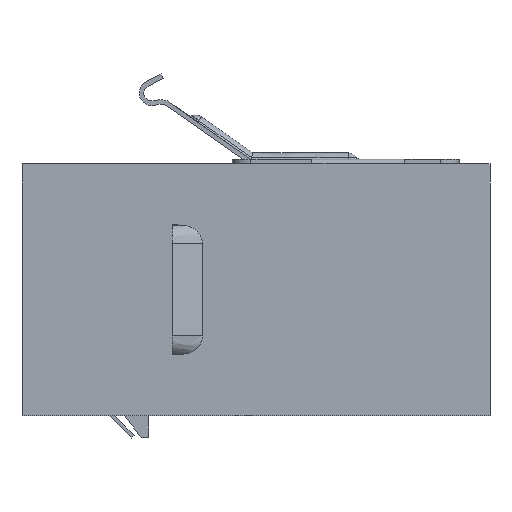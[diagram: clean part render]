
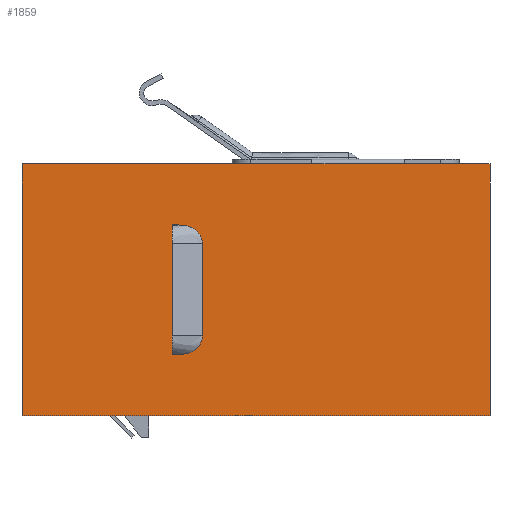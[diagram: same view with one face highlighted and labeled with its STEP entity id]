
A CAD part, front view. The second image highlights one B-rep face of the part: STEP entity #1859.
In plain terms, the highlighted free-form (B-spline) face has degree [1, 1] with [2, 2] control points.
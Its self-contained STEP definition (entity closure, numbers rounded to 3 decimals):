
#1088=CARTESIAN_POINT('',(9.616,0.,3.906));
#1089=VERTEX_POINT('',#1088);
#1099=CARTESIAN_POINT('',(9.616,0.,12.22));
#1100=VERTEX_POINT('',#1099);
#1101=CARTESIAN_POINT('',(9.616,0.,3.906));
#1102=CARTESIAN_POINT('',(9.616,0.,5.569));
#1103=CARTESIAN_POINT('',(9.616,0.,7.232));
#1104=CARTESIAN_POINT('',(9.616,0.,8.895));
#1105=CARTESIAN_POINT('',(9.616,0.,10.558));
#1106=CARTESIAN_POINT('',(9.616,0.,12.22));
#1107=B_SPLINE_CURVE_WITH_KNOTS('',5,(#1101,#1102,#1103,#1104,#1105,#1106),.UNSPECIFIED.,.F.,.U.,(6,6),(0.,8.314),.UNSPECIFIED.);
#1108=EDGE_CURVE('',#1089,#1100,#1107,.T.);
#1139=CARTESIAN_POINT('',(10.027,0.,3.906));
#1140=VERTEX_POINT('',#1139);
#1150=CARTESIAN_POINT('',(10.027,0.,3.906));
#1151=CARTESIAN_POINT('',(9.945,0.,3.906));
#1152=CARTESIAN_POINT('',(9.863,0.,3.906));
#1153=CARTESIAN_POINT('',(9.78,0.,3.906));
#1154=CARTESIAN_POINT('',(9.698,0.,3.906));
#1155=CARTESIAN_POINT('',(9.616,0.,3.906));
#1156=B_SPLINE_CURVE_WITH_KNOTS('',5,(#1150,#1151,#1152,#1153,#1154,#1155),.UNSPECIFIED.,.F.,.U.,(6,6),(0.,1.),.UNSPECIFIED.);
#1157=EDGE_CURVE('',#1140,#1089,#1156,.T.);
#1216=CARTESIAN_POINT('',(11.555,0.,5.104));
#1217=VERTEX_POINT('',#1216);
#1227=CARTESIAN_POINT('',(11.555,0.,5.104));
#1228=CARTESIAN_POINT('',(11.556,0.,4.963));
#1229=CARTESIAN_POINT('',(11.532,0.,4.821));
#1230=CARTESIAN_POINT('',(11.485,0.,4.684));
#1231=CARTESIAN_POINT('',(11.418,0.,4.557));
#1232=CARTESIAN_POINT('',(11.278,0.,4.376));
#1233=CARTESIAN_POINT('',(11.219,0.,4.312));
#1234=CARTESIAN_POINT('',(11.155,0.,4.252));
#1235=CARTESIAN_POINT('',(11.086,0.,4.199));
#1236=CARTESIAN_POINT('',(10.937,0.,4.104));
#1237=CARTESIAN_POINT('',(10.858,0.,4.062));
#1238=CARTESIAN_POINT('',(10.775,0.,4.028));
#1239=CARTESIAN_POINT('',(10.69,0.,4.001));
#1240=CARTESIAN_POINT('',(10.489,0.,3.956));
#1241=CARTESIAN_POINT('',(10.374,0.,3.936));
#1242=CARTESIAN_POINT('',(10.259,0.,3.921));
#1243=CARTESIAN_POINT('',(10.143,0.,3.911));
#1244=CARTESIAN_POINT('',(10.027,0.,3.906));
#1245=B_SPLINE_CURVE_WITH_KNOTS('',5,(#1227,#1228,#1229,#1230,#1231,#1232,#1233,#1234,#1235,#1236,#1237,#1238,#1239,#1240,#1241,#1242,#1243,#1244),.UNSPECIFIED.,.F.,.U.,(6,4,4,4,6),(0.,0.326,0.527,0.732,1.),.UNSPECIFIED.);
#1246=EDGE_CURVE('',#1217,#1140,#1245,.T.);
#1258=CARTESIAN_POINT('',(11.555,0.,11.022));
#1259=VERTEX_POINT('',#1258);
#1269=CARTESIAN_POINT('',(11.555,0.,11.022));
#1270=CARTESIAN_POINT('',(11.555,0.,9.839));
#1271=CARTESIAN_POINT('',(11.555,0.,8.655));
#1272=CARTESIAN_POINT('',(11.555,0.,7.472));
#1273=CARTESIAN_POINT('',(11.555,0.,6.288));
#1274=CARTESIAN_POINT('',(11.555,0.,5.104));
#1275=B_SPLINE_CURVE_WITH_KNOTS('',5,(#1269,#1270,#1271,#1272,#1273,#1274),.UNSPECIFIED.,.F.,.U.,(6,6),(0.,5.918),.UNSPECIFIED.);
#1276=EDGE_CURVE('',#1259,#1217,#1275,.T.);
#1336=CARTESIAN_POINT('',(10.027,0.,12.22));
#1337=VERTEX_POINT('',#1336);
#1347=CARTESIAN_POINT('',(10.027,0.,12.22));
#1348=CARTESIAN_POINT('',(10.143,0.,12.216));
#1349=CARTESIAN_POINT('',(10.259,0.,12.206));
#1350=CARTESIAN_POINT('',(10.374,0.,12.191));
#1351=CARTESIAN_POINT('',(10.489,0.,12.171));
#1352=CARTESIAN_POINT('',(10.688,0.,12.127));
#1353=CARTESIAN_POINT('',(10.771,0.,12.1));
#1354=CARTESIAN_POINT('',(10.852,0.,12.067));
#1355=CARTESIAN_POINT('',(10.93,0.,12.027));
#1356=CARTESIAN_POINT('',(11.079,0.,11.933));
#1357=CARTESIAN_POINT('',(11.15,0.,11.879));
#1358=CARTESIAN_POINT('',(11.216,0.,11.818));
#1359=CARTESIAN_POINT('',(11.277,0.,11.752));
#1360=CARTESIAN_POINT('',(11.418,0.,11.569));
#1361=CARTESIAN_POINT('',(11.485,0.,11.442));
#1362=CARTESIAN_POINT('',(11.532,0.,11.306));
#1363=CARTESIAN_POINT('',(11.556,0.,11.164));
#1364=CARTESIAN_POINT('',(11.555,0.,11.022));
#1365=B_SPLINE_CURVE_WITH_KNOTS('',5,(#1347,#1348,#1349,#1350,#1351,#1352,#1353,#1354,#1355,#1356,#1357,#1358,#1359,#1360,#1361,#1362,#1363,#1364),.UNSPECIFIED.,.F.,.U.,(6,4,4,4,6),(0.,0.268,0.468,0.674,1.),.UNSPECIFIED.);
#1366=EDGE_CURVE('',#1337,#1259,#1365,.T.);
#1390=CARTESIAN_POINT('',(9.616,0.,12.22));
#1391=CARTESIAN_POINT('',(9.698,0.,12.22));
#1392=CARTESIAN_POINT('',(9.78,0.,12.22));
#1393=CARTESIAN_POINT('',(9.863,0.,12.22));
#1394=CARTESIAN_POINT('',(9.945,0.,12.22));
#1395=CARTESIAN_POINT('',(10.027,0.,12.22));
#1396=B_SPLINE_CURVE_WITH_KNOTS('',5,(#1390,#1391,#1392,#1393,#1394,#1395),.UNSPECIFIED.,.F.,.U.,(6,6),(0.,1.),.UNSPECIFIED.);
#1397=EDGE_CURVE('',#1100,#1337,#1396,.T.);
#1778=CARTESIAN_POINT('',(30.,0.,16.127));
#1779=CARTESIAN_POINT('',(30.,0.,0.));
#1780=CARTESIAN_POINT('',(0.,0.,16.127));
#1781=CARTESIAN_POINT('',(0.,0.,0.));
#1782=B_SPLINE_SURFACE_WITH_KNOTS('',1,1,((#1778,#1779),(#1780,#1781)),.PLANE_SURF.,.F.,.F.,.U.,(2,2),(2,2),(0.,1.86),(0.,1.),.UNSPECIFIED.);
#1783=CARTESIAN_POINT('',(30.,0.,0.));
#1784=VERTEX_POINT('',#1783);
#1785=CARTESIAN_POINT('',(0.,0.,0.));
#1786=VERTEX_POINT('',#1785);
#1787=CARTESIAN_POINT('',(30.,0.,0.));
#1788=CARTESIAN_POINT('',(24.,0.,0.));
#1789=CARTESIAN_POINT('',(18.,0.,0.));
#1790=CARTESIAN_POINT('',(12.,0.,0.));
#1791=CARTESIAN_POINT('',(6.,0.,0.));
#1792=CARTESIAN_POINT('',(0.,0.,0.));
#1793=B_SPLINE_CURVE_WITH_KNOTS('',5,(#1787,#1788,#1789,#1790,#1791,#1792),.UNSPECIFIED.,.F.,.U.,(6,6),(0.,30.),.UNSPECIFIED.);
#1794=EDGE_CURVE('',#1784,#1786,#1793,.T.);
#1795=ORIENTED_EDGE('',*,*,#1794,.F.);
#1796=CARTESIAN_POINT('',(30.,0.,16.127));
#1797=VERTEX_POINT('',#1796);
#1798=CARTESIAN_POINT('',(30.,0.,16.127));
#1799=CARTESIAN_POINT('',(30.,0.,12.901));
#1800=CARTESIAN_POINT('',(30.,0.,9.676));
#1801=CARTESIAN_POINT('',(30.,0.,6.451));
#1802=CARTESIAN_POINT('',(30.,0.,3.225));
#1803=CARTESIAN_POINT('',(30.,0.,0.));
#1804=B_SPLINE_CURVE_WITH_KNOTS('',5,(#1798,#1799,#1800,#1801,#1802,#1803),.UNSPECIFIED.,.F.,.U.,(6,6),(0.,16.127),.UNSPECIFIED.);
#1805=EDGE_CURVE('',#1797,#1784,#1804,.T.);
#1806=ORIENTED_EDGE('',*,*,#1805,.F.);
#1807=CARTESIAN_POINT('',(24.541,0.,16.127));
#1808=VERTEX_POINT('',#1807);
#1809=CARTESIAN_POINT('',(24.541,0.,16.127));
#1810=CARTESIAN_POINT('',(25.633,0.,16.127));
#1811=CARTESIAN_POINT('',(26.725,0.,16.127));
#1812=CARTESIAN_POINT('',(27.816,0.,16.127));
#1813=CARTESIAN_POINT('',(28.908,0.,16.127));
#1814=CARTESIAN_POINT('',(30.,0.,16.127));
#1815=B_SPLINE_CURVE_WITH_KNOTS('',5,(#1809,#1810,#1811,#1812,#1813,#1814),.UNSPECIFIED.,.F.,.U.,(6,6),(0.,5.459),.UNSPECIFIED.);
#1816=EDGE_CURVE('',#1808,#1797,#1815,.T.);
#1817=ORIENTED_EDGE('',*,*,#1816,.F.);
#1818=CARTESIAN_POINT('',(18.581,0.,16.127));
#1819=VERTEX_POINT('',#1818);
#1820=CARTESIAN_POINT('',(18.581,0.,16.127));
#1821=CARTESIAN_POINT('',(19.773,0.,16.127));
#1822=CARTESIAN_POINT('',(20.965,0.,16.127));
#1823=CARTESIAN_POINT('',(22.157,0.,16.127));
#1824=CARTESIAN_POINT('',(23.349,0.,16.127));
#1825=CARTESIAN_POINT('',(24.541,0.,16.127));
#1826=B_SPLINE_CURVE_WITH_KNOTS('',5,(#1820,#1821,#1822,#1823,#1824,#1825),.UNSPECIFIED.,.F.,.U.,(6,6),(0.,5.96),.UNSPECIFIED.);
#1827=EDGE_CURVE('',#1819,#1808,#1826,.T.);
#1828=ORIENTED_EDGE('',*,*,#1827,.F.);
#1829=CARTESIAN_POINT('',(0.,0.,16.127));
#1830=VERTEX_POINT('',#1829);
#1831=CARTESIAN_POINT('',(0.,0.,16.127));
#1832=CARTESIAN_POINT('',(3.716,0.,16.127));
#1833=CARTESIAN_POINT('',(7.432,0.,16.127));
#1834=CARTESIAN_POINT('',(11.149,0.,16.127));
#1835=CARTESIAN_POINT('',(14.865,0.,16.127));
#1836=CARTESIAN_POINT('',(18.581,0.,16.127));
#1837=B_SPLINE_CURVE_WITH_KNOTS('',5,(#1831,#1832,#1833,#1834,#1835,#1836),.UNSPECIFIED.,.F.,.U.,(6,6),(0.,18.581),.UNSPECIFIED.);
#1838=EDGE_CURVE('',#1830,#1819,#1837,.T.);
#1839=ORIENTED_EDGE('',*,*,#1838,.F.);
#1840=CARTESIAN_POINT('',(0.,0.,0.));
#1841=CARTESIAN_POINT('',(0.,0.,3.225));
#1842=CARTESIAN_POINT('',(0.,0.,6.451));
#1843=CARTESIAN_POINT('',(0.,0.,9.676));
#1844=CARTESIAN_POINT('',(0.,0.,12.901));
#1845=CARTESIAN_POINT('',(0.,0.,16.127));
#1846=B_SPLINE_CURVE_WITH_KNOTS('',5,(#1840,#1841,#1842,#1843,#1844,#1845),.UNSPECIFIED.,.F.,.U.,(6,6),(0.,16.127),.UNSPECIFIED.);
#1847=EDGE_CURVE('',#1786,#1830,#1846,.T.);
#1848=ORIENTED_EDGE('',*,*,#1847,.F.);
#1849=EDGE_LOOP('',(#1795,#1806,#1817,#1828,#1839,#1848));
#1850=FACE_OUTER_BOUND('',#1849,.T.);
#1851=ORIENTED_EDGE('',*,*,#1108,.T.);
#1852=ORIENTED_EDGE('',*,*,#1397,.T.);
#1853=ORIENTED_EDGE('',*,*,#1366,.T.);
#1854=ORIENTED_EDGE('',*,*,#1276,.T.);
#1855=ORIENTED_EDGE('',*,*,#1246,.T.);
#1856=ORIENTED_EDGE('',*,*,#1157,.T.);
#1857=EDGE_LOOP('',(#1851,#1852,#1853,#1854,#1855,#1856));
#1858=FACE_BOUND('',#1857,.T.);
#1859=ADVANCED_FACE('',(#1850,#1858),#1782,.T.);
